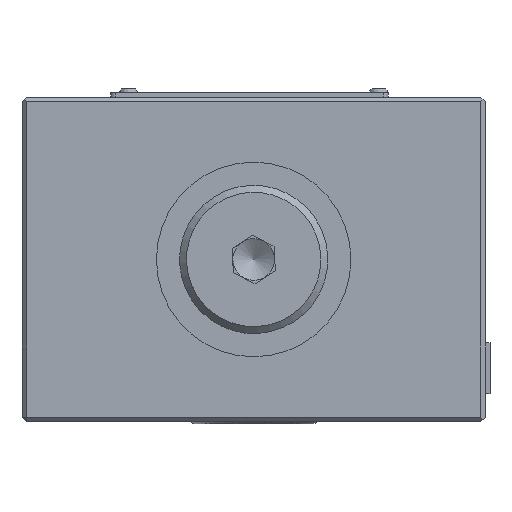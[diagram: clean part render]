
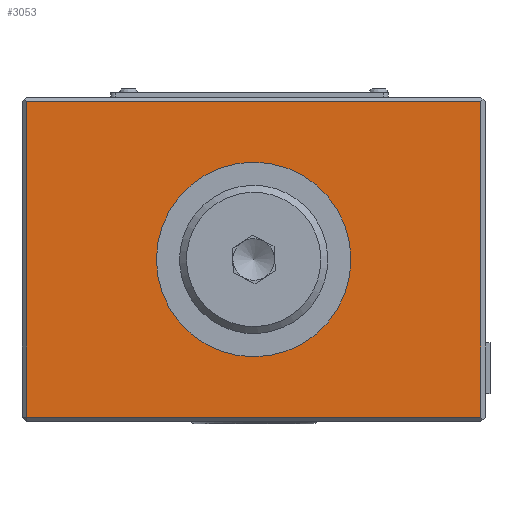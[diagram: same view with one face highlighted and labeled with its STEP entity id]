
A CAD part, front view. The second image highlights one B-rep face of the part: STEP entity #3053.
In plain terms, the highlighted planar face has unit normal (0, -1, 0).
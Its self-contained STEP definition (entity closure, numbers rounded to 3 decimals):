
#92=LINE('',#15856,#554);
#93=LINE('',#15859,#555);
#94=LINE('',#15861,#556);
#95=LINE('',#15863,#557);
#554=VECTOR('',#12884,1.);
#555=VECTOR('',#12885,1.);
#556=VECTOR('',#12886,1.);
#557=VECTOR('',#12887,1.);
#2508=PLANE('',#11512);
#3053=ADVANCED_FACE('',(#3940,#3941),#2508,.T.);
#3940=FACE_BOUND('',#4517,.T.);
#3941=FACE_BOUND('',#4518,.T.);
#4517=EDGE_LOOP('',(#5569,#5570,#5571,#5572));
#4518=EDGE_LOOP('',(#5573));
#5569=ORIENTED_EDGE('',*,*,#9471,.T.);
#5570=ORIENTED_EDGE('',*,*,#9472,.T.);
#5571=ORIENTED_EDGE('',*,*,#9473,.T.);
#5572=ORIENTED_EDGE('',*,*,#9474,.T.);
#5573=ORIENTED_EDGE('',*,*,#9475,.T.);
#8449=VERTEX_POINT('',#15857);
#8450=VERTEX_POINT('',#15858);
#8451=VERTEX_POINT('',#15860);
#8452=VERTEX_POINT('',#15862);
#8453=VERTEX_POINT('',#15865);
#9471=EDGE_CURVE('',#8449,#8450,#92,.T.);
#9472=EDGE_CURVE('',#8450,#8451,#93,.T.);
#9473=EDGE_CURVE('',#8451,#8452,#94,.T.);
#9474=EDGE_CURVE('',#8452,#8449,#95,.T.);
#9475=EDGE_CURVE('',#8453,#8453,#10934,.T.);
#10934=CIRCLE('',#11511,21.);
#11511=AXIS2_PLACEMENT_3D('',#15864,#12888,#12889);
#11512=AXIS2_PLACEMENT_3D('',#15866,#12890,#12891);
#12884=DIRECTION('',(-1.,0.,0.));
#12885=DIRECTION('',(0.,0.,-1.));
#12886=DIRECTION('',(1.,0.,0.));
#12887=DIRECTION('',(0.,0.,1.));
#12888=DIRECTION('',(0.,1.,0.));
#12889=DIRECTION('',(0.,0.,1.));
#12890=DIRECTION('',(0.,-1.,0.));
#12891=DIRECTION('',(0.,0.,1.));
#15856=CARTESIAN_POINT('',(57.801,-126.127,34.));
#15857=CARTESIAN_POINT('',(56.801,-126.127,34.));
#15858=CARTESIAN_POINT('',(-41.199,-126.127,34.));
#15859=CARTESIAN_POINT('',(-41.199,-126.127,35.));
#15860=CARTESIAN_POINT('',(-41.199,-126.127,-34.));
#15861=CARTESIAN_POINT('',(56.801,-126.127,-34.));
#15862=CARTESIAN_POINT('',(56.801,-126.127,-34.));
#15863=CARTESIAN_POINT('',(56.801,-126.127,35.));
#15864=CARTESIAN_POINT('',(7.801,-126.127,0.));
#15865=CARTESIAN_POINT('',(7.801,-126.127,21.));
#15866=CARTESIAN_POINT('',(57.801,-126.127,35.));
